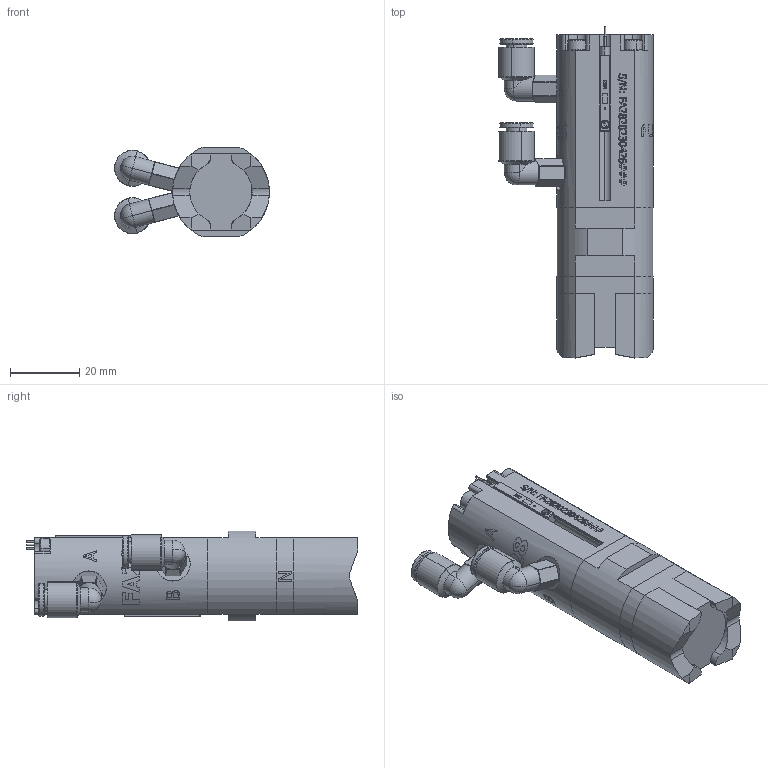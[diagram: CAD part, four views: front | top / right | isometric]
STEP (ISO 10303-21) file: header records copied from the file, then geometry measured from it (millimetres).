
FILE_DESCRIPTION (( 'STEP AP214' ), '1' );
FILE_NAME ('9970117_FA28-V-2 (FOR SHARE).STEP', '2023-10-06T08:00:43', ( '' ), ( '' ), 'SwSTEP 2.0', 'SolidWorks 2021', '' );
FILE_SCHEMA (( 'AUTOMOTIVE_DESIGN' ));
Length unit declared in the file: millimetre
Products named in the file (12): 160029_2.5X8__SUS304_默认_; 110031_FA28 actuator top(FOR SHARE); 150048_M3X75_SHCS_304(FOR SHARE)_91292A316; 210012_D-M9N magnetic prox switch (NPN)_M9P; 120040_FA28 shunt(FOR SHARE); 9970117_FA28-V-2 (FOR SHARE); 110030_FA28 base housing(FOR SHARE); 160030_2.5X12__SUS304_默认_; 120049_FA28 std  V-cut pole; 9070005 - FA28 (FOR SHARE); 4060032_FA28 std V-cut pole kit_默认_; 180027_ M5-6mm_plug-in airport
Assembly tree (19 placements, depth 3):
  9970117_FA28-V-2 (FOR SHARE)
    9070005 - FA28 (FOR SHARE)
      110031_FA28 actuator top(FOR SHARE)
      110030_FA28 base housing(FOR SHARE)
      120040_FA28 shunt(FOR SHARE)
      150048_M3X75_SHCS_304(FOR SHARE)_91292A316  x4
      160029_2.5X8__SUS304_默认_  x2
      160030_2.5X12__SUS304_默认_  x2
    210012_D-M9N magnetic prox switch (NPN)_M9P  x2
    4060032_FA28 std V-cut pole kit_默认_
      120049_FA28 std  V-cut pole  x2
    180027_ M5-6mm_plug-in airport  x2
Bounding box: 44.78 x 96.04 x 26 mm (x, y, z)
Volume: 48355 mm3; surface area: 25171.7 mm2
Topology: 17 solids, 23 shells, 807 faces, 2333 edges, 1613 vertices
Faces by surface type: cylinder 307, plane 272, cone 134, bspline 34, torus 32, sphere 28
Entity records: 23493 total; most frequent: CARTESIAN_POINT 7590, ORIENTED_EDGE 3104, DIRECTION 2648, EDGE_CURVE 1556, VERTEX_POINT 1180, AXIS2_PLACEMENT_3D 959, VECTOR 730, LINE 730
